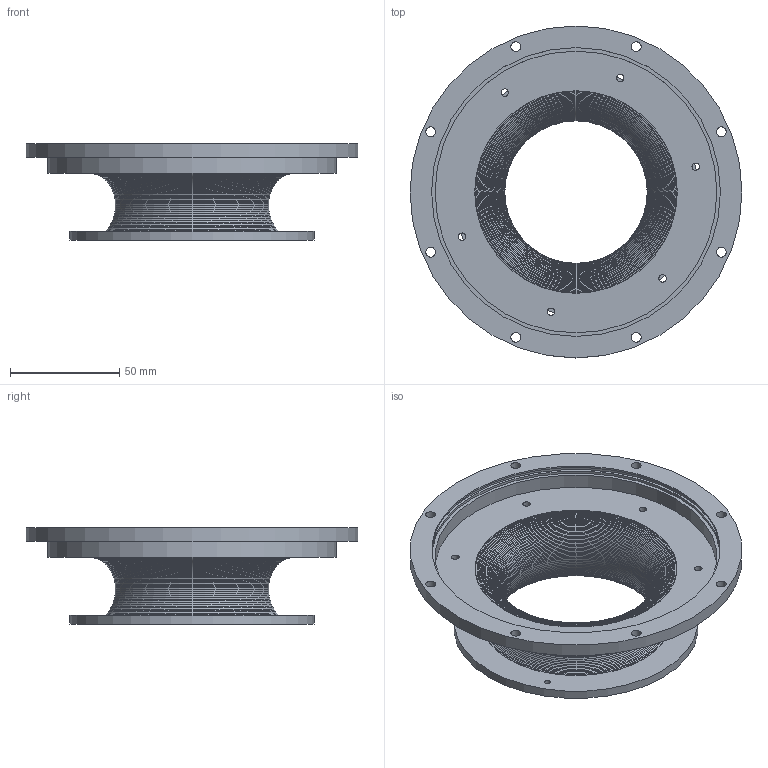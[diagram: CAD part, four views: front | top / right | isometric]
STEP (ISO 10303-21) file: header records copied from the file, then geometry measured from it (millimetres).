
FILE_DESCRIPTION(('Open CASCADE Model'),'2;1');
FILE_NAME('Open CASCADE Shape Model','2026-09-23T03:14:14',('Author'),( 'Open CASCADE'),'Open CASCADE STEP processor 7.9','Open CASCADE 7.9' ,'Unknown');
FILE_SCHEMA(('AUTOMOTIVE_DESIGN { 1 0 10303 214 1 1 1 1 }'));
Length unit declared in the file: millimetre
Products named in the file (1): Open CASCADE STEP translator 7.9 1
Bounding box: 152 x 152 x 44 mm (x, y, z)
Volume: 86331.8 mm3; surface area: 63933.2 mm2
Topology: 1 solids, 1 shells, 165 faces, 337 edges, 182 vertices
Faces by surface type: cone 129, cylinder 26, plane 10
Full cylindrical faces by diameter (mm): 2.5 x3, 3.4 x6, 4.5 x8, 87 x1, 92.74 x1, 112 x1, 129 x1, 132 x1, 132.2 x2, 134.6 x1, 152 x1
Entity records: 8978 total; most frequent: CARTESIAN_POINT 1734, DIRECTION 1487, LINE 773, VECTOR 773, ORIENTED_EDGE 674, PCURVE 674, DEFINITIONAL_REPRESENTATION 674, AXIS2_PLACEMENT_3D 347
